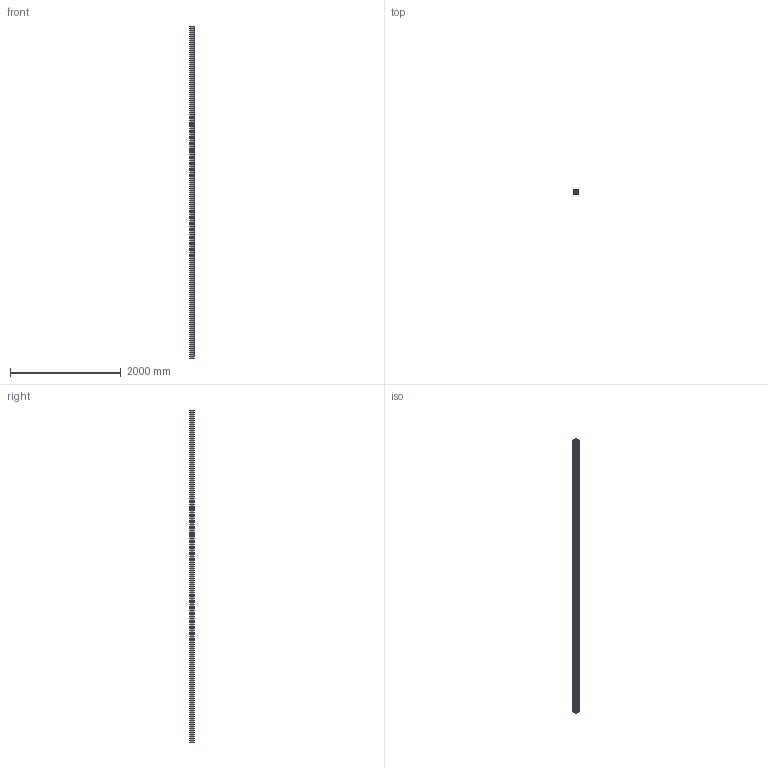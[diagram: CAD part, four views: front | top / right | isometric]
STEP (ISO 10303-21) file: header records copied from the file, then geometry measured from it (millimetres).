
FILE_DESCRIPTION (( 'STEP AP214' ), '1' );
FILE_NAME ('90x90 Slot 10 (Heavy).STEP', '2017-08-10T00:01:09', ( 'Ahmed' ), ( '' ), 'SwSTEP 2.0', 'SolidWorks 2016', '' );
FILE_SCHEMA (( 'AUTOMOTIVE_DESIGN' ));
Length unit declared in the file: millimetre
Products named in the file (2): 90x90 Slot 10 (Heavy)
Bounding box: 90 x 90 x 6000 mm (x, y, z)
Volume: 15075532.3 mm3; surface area: 9437391.6 mm2
Topology: 1 solids, 1 shells, 598 faces, 1767 edges, 1178 vertices
Faces by surface type: plane 424, cylinder 148, bspline 26
Entity records: 21724 total; most frequent: CARTESIAN_POINT 5523, ORIENTED_EDGE 3534, DIRECTION 3159, EDGE_CURVE 1767, VECTOR 1419, LINE 1419, VERTEX_POINT 1178, AXIS2_PLACEMENT_3D 870
